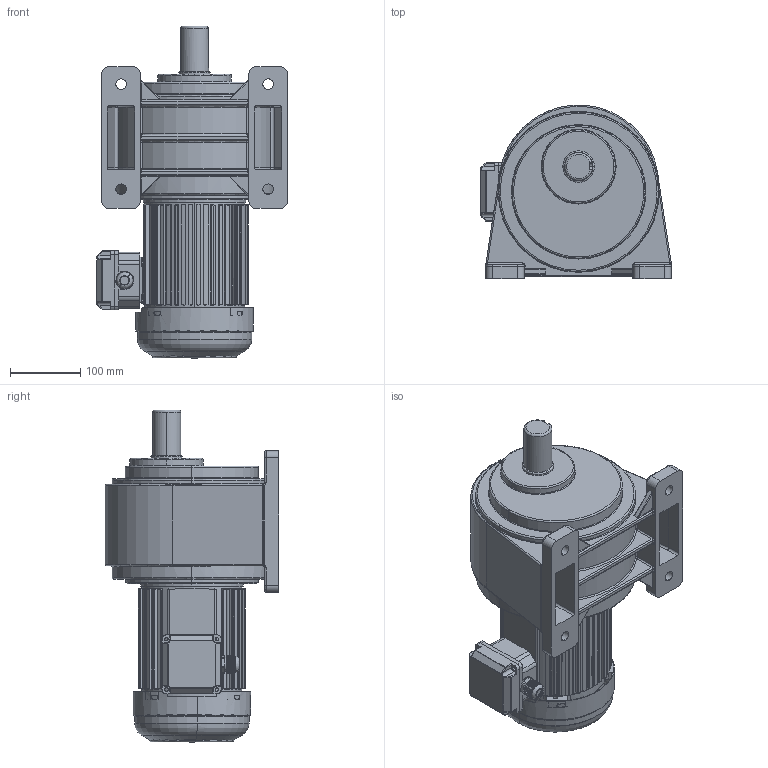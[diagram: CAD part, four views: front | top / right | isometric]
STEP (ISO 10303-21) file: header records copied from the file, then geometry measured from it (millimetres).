
FILE_DESCRIPTION (( 'STEP AP203' ), '1' );
FILE_NAME ('750W饜5#湍价陬拏宒.STEP', '2020-04-17T07:56:30', ( '' ), ( '' ), 'SwSTEP 2.0', 'SolidWorks 2019', '' );
FILE_SCHEMA (( 'CONFIG_CONTROL_DESIGN' ));
Length unit declared in the file: millimetre
Products named in the file (5): 750W饜5#拏宒; 750W饜5#湍价陬拏宒; 750W价陬瑞欶; 湍价陬諉盄碟裔; 750W棠憤迖殤
Assembly tree (4 placements, depth 2):
  750W饜5#湍价陬拏宒
    750W饜5#拏宒
    750W棠憤迖殤
    750W价陬瑞欶
    湍价陬諉盄碟裔
Bounding box: 272.5 x 247.74 x 474 mm (x, y, z)
Volume: 341621.7 mm3; surface area: 882617.2 mm2
Topology: 3 solids, 11 shells, 1955 faces, 5279 edges, 3394 vertices
Faces by surface type: plane 935, cylinder 720, bspline 258, torus 18, cone 12, sphere 12
Entity records: 79063 total; most frequent: CARTESIAN_POINT 31767, ORIENTED_EDGE 10502, DIRECTION 8519, EDGE_CURVE 5253, VERTEX_POINT 3394, VECTOR 2869, LINE 2869, AXIS2_PLACEMENT_3D 2825
